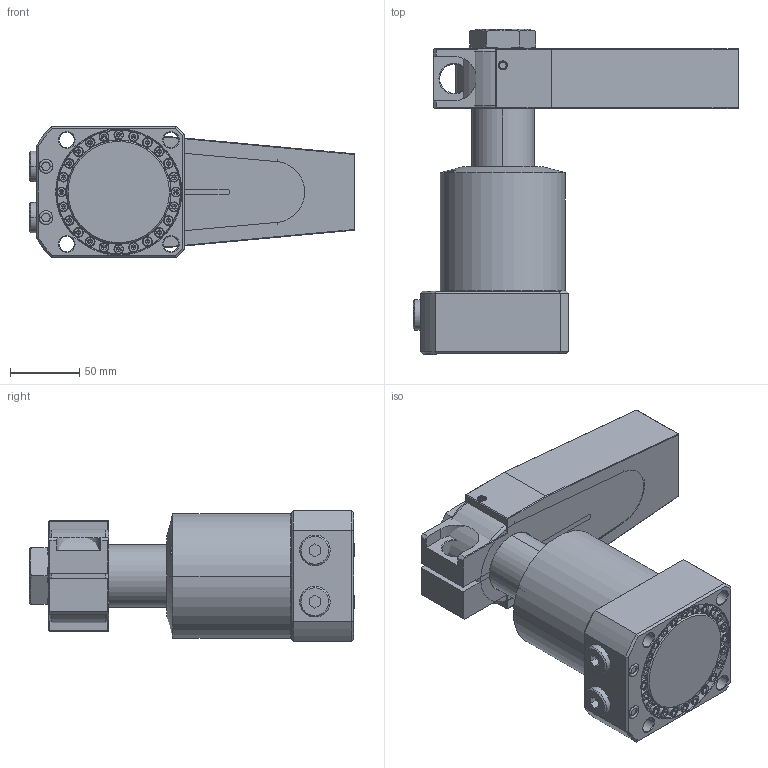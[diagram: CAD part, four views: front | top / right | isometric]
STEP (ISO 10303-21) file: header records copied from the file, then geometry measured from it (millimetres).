
FILE_DESCRIPTION((''),'2;1');
FILE_NAME('SIMP__GENERIC_SWING_CYD_90_ASM','2023-04-16T11:49:22',('Design 2'),(''),'CREO PARAMETRIC BY PTC INC, 2020053','CREO PARAMETRIC BY PTC INC, 2020053','');
FILE_SCHEMA(('CONFIG_CONTROL_DESIGN'));
Length unit declared in the file: millimetre
Products named in the file (16): BODY__; BODY_TOP_FLG___ASM; PISTON__; PISTON_ASM___ASM; SWINGER_ARM__; SWINGER_ARM_ASM___ASM; CLAMP__; HEXAGON_NUT__; CLAMP_2ND_TYPE__; G-3-8_CLOSE_PLUG___; STATIC-O-RING-10X2SSS__; 1_______; 2_______; HALDER_SEALING-PLUG-228JSDBU_ASM; ISHCS04X12_; SIMP__GENERIC_SWING_CYD_90_ASM
Assembly tree (40 placements, depth 3):
  SIMP__GENERIC_SWING_CYD_90_ASM
    BODY_TOP_FLG___ASM
      BODY__
    PISTON_ASM___ASM
      PISTON__
    SWINGER_ARM_ASM___ASM
      SWINGER_ARM__
    CLAMP__
    HEXAGON_NUT__
    CLAMP_2ND_TYPE__
    G-3-8_CLOSE_PLUG___  x2
    STATIC-O-RING-10X2SSS__  x2
    HALDER_SEALING-PLUG-228JSDBU_ASM
      1_______
      2_______
    ISHCS04X12_  x24
Bounding box: 234.5 x 234.25 x 95 mm (x, y, z)
Volume: 1892717.7 mm3; surface area: 260429.5 mm2
Topology: 36 solids, 36 shells, 1556 faces, 3490 edges, 2036 vertices
Faces by surface type: cylinder 518, plane 511, cone 388, torus 74, bspline 62, sphere 3
Entity records: 37508 total; most frequent: CARTESIAN_POINT 19227, ORIENTED_EDGE 3714, DIRECTION 3687, EDGE_CURVE 1857, AXIS2_PLACEMENT_3D 1418, VERTEX_POINT 1125, EDGE_LOOP 902, VECTOR 851
